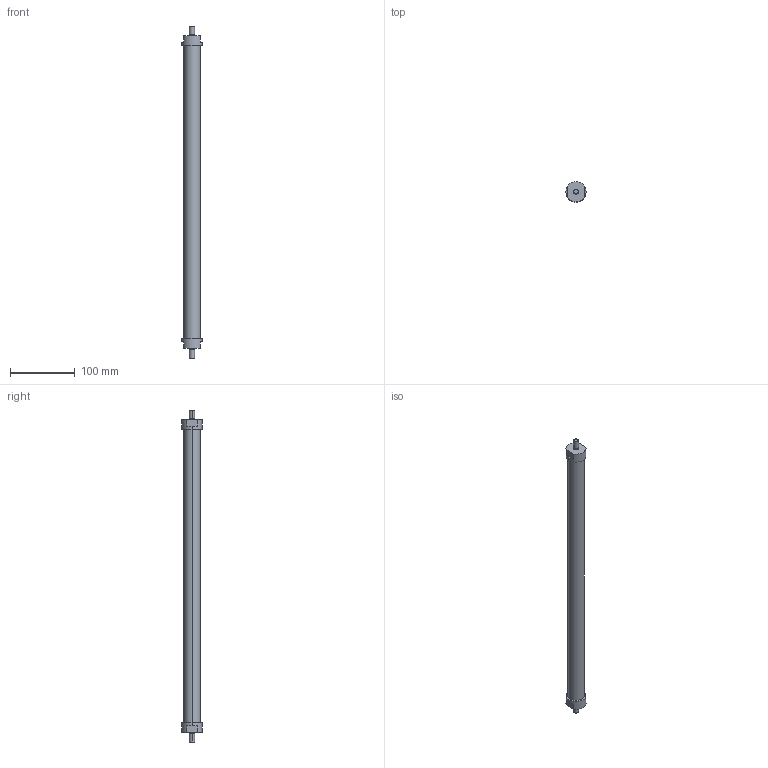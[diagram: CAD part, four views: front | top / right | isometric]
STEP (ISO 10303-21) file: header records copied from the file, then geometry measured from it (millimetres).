
FILE_DESCRIPTION(('STEP AP214'),'1');
FILE_NAME('ETT-R050N494.stp','2015-02-02T15:41:30',(' '),(' '),'Spatial InterOp 3D',' ',' ');
FILE_SCHEMA(('automotive_design'));
Length unit declared in the file: metre
Products named in the file (3): 1; 2; 3
Bounding box: 31 x 31 x 514 mm (x, y, z)
Volume: 245862.8 mm3; surface area: 41884.4 mm2
Topology: 1 solids, 7 shells, 30 faces, 81 edges, 63 vertices
Faces by surface type: plane 16, cylinder 14
Entity records: 1295 total; most frequent: DIRECTION 194, CARTESIAN_POINT 177, ORIENTED_EDGE 138, EDGE_CURVE 81, AXIS2_PLACEMENT_3D 80, VERTEX_POINT 63, CIRCLE 47, EDGE_LOOP 36
